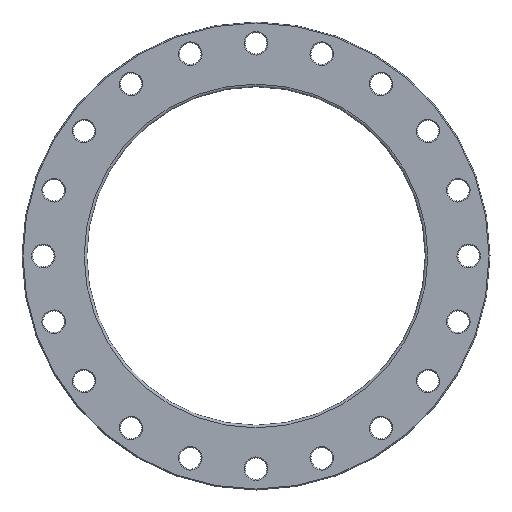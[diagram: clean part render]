
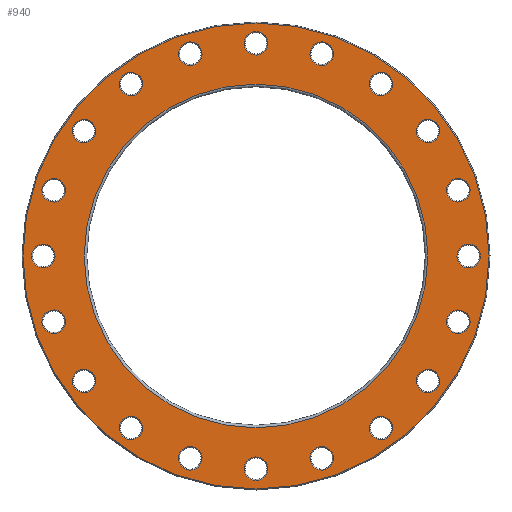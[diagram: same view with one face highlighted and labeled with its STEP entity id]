
A CAD part, front view. The second image highlights one B-rep face of the part: STEP entity #940.
In plain terms, the highlighted planar face has unit normal (0, -1, 0).
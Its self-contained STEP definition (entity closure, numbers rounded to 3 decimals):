
#23=PLANE('',#1104);
#206=ORIENTED_EDGE('',*,*,#325,.T.);
#207=ORIENTED_EDGE('',*,*,#326,.T.);
#208=ORIENTED_EDGE('',*,*,#244,.T.);
#209=ORIENTED_EDGE('',*,*,#248,.T.);
#210=ORIENTED_EDGE('',*,*,#252,.T.);
#211=ORIENTED_EDGE('',*,*,#256,.T.);
#212=ORIENTED_EDGE('',*,*,#260,.T.);
#213=ORIENTED_EDGE('',*,*,#264,.T.);
#214=ORIENTED_EDGE('',*,*,#268,.T.);
#215=ORIENTED_EDGE('',*,*,#272,.T.);
#216=ORIENTED_EDGE('',*,*,#276,.T.);
#217=ORIENTED_EDGE('',*,*,#280,.T.);
#218=ORIENTED_EDGE('',*,*,#284,.T.);
#219=ORIENTED_EDGE('',*,*,#288,.T.);
#220=ORIENTED_EDGE('',*,*,#292,.T.);
#221=ORIENTED_EDGE('',*,*,#296,.T.);
#222=ORIENTED_EDGE('',*,*,#300,.T.);
#223=ORIENTED_EDGE('',*,*,#304,.T.);
#224=ORIENTED_EDGE('',*,*,#308,.T.);
#225=ORIENTED_EDGE('',*,*,#312,.T.);
#226=ORIENTED_EDGE('',*,*,#316,.T.);
#227=ORIENTED_EDGE('',*,*,#327,.T.);
#244=EDGE_CURVE('',#332,#332,#420,.T.);
#248=EDGE_CURVE('',#336,#336,#424,.T.);
#252=EDGE_CURVE('',#340,#340,#428,.T.);
#256=EDGE_CURVE('',#344,#344,#432,.T.);
#260=EDGE_CURVE('',#348,#348,#436,.T.);
#264=EDGE_CURVE('',#352,#352,#440,.T.);
#268=EDGE_CURVE('',#356,#356,#444,.T.);
#272=EDGE_CURVE('',#360,#360,#448,.T.);
#276=EDGE_CURVE('',#364,#364,#452,.T.);
#280=EDGE_CURVE('',#368,#368,#456,.T.);
#284=EDGE_CURVE('',#372,#372,#460,.T.);
#288=EDGE_CURVE('',#376,#376,#464,.T.);
#292=EDGE_CURVE('',#380,#380,#468,.T.);
#296=EDGE_CURVE('',#384,#384,#472,.T.);
#300=EDGE_CURVE('',#388,#388,#476,.T.);
#304=EDGE_CURVE('',#392,#392,#480,.T.);
#308=EDGE_CURVE('',#396,#396,#484,.T.);
#312=EDGE_CURVE('',#400,#400,#488,.T.);
#316=EDGE_CURVE('',#404,#404,#492,.T.);
#325=EDGE_CURVE('',#413,#413,#501,.F.);
#326=EDGE_CURVE('',#414,#414,#502,.T.);
#327=EDGE_CURVE('',#415,#415,#503,.T.);
#332=VERTEX_POINT('',#1439);
#336=VERTEX_POINT('',#1450);
#340=VERTEX_POINT('',#1461);
#344=VERTEX_POINT('',#1472);
#348=VERTEX_POINT('',#1483);
#352=VERTEX_POINT('',#1494);
#356=VERTEX_POINT('',#1505);
#360=VERTEX_POINT('',#1516);
#364=VERTEX_POINT('',#1527);
#368=VERTEX_POINT('',#1538);
#372=VERTEX_POINT('',#1549);
#376=VERTEX_POINT('',#1560);
#380=VERTEX_POINT('',#1571);
#384=VERTEX_POINT('',#1582);
#388=VERTEX_POINT('',#1593);
#392=VERTEX_POINT('',#1604);
#396=VERTEX_POINT('',#1615);
#400=VERTEX_POINT('',#1626);
#404=VERTEX_POINT('',#1637);
#413=VERTEX_POINT('',#1660);
#414=VERTEX_POINT('',#1662);
#415=VERTEX_POINT('',#1664);
#420=CIRCLE('',#965,18.);
#424=CIRCLE('',#972,18.);
#428=CIRCLE('',#979,18.);
#432=CIRCLE('',#986,18.);
#436=CIRCLE('',#993,18.);
#440=CIRCLE('',#1000,18.);
#444=CIRCLE('',#1007,18.);
#448=CIRCLE('',#1014,18.);
#452=CIRCLE('',#1021,18.);
#456=CIRCLE('',#1028,18.);
#460=CIRCLE('',#1035,18.);
#464=CIRCLE('',#1042,18.);
#468=CIRCLE('',#1049,18.);
#472=CIRCLE('',#1056,18.);
#476=CIRCLE('',#1063,18.);
#480=CIRCLE('',#1070,18.);
#484=CIRCLE('',#1077,18.);
#488=CIRCLE('',#1084,18.);
#492=CIRCLE('',#1091,18.);
#501=CIRCLE('',#1105,356.);
#502=CIRCLE('',#1106,262.5);
#503=CIRCLE('',#1107,18.);
#646=EDGE_LOOP('',(#206));
#647=EDGE_LOOP('',(#207));
#648=EDGE_LOOP('',(#208));
#649=EDGE_LOOP('',(#209));
#650=EDGE_LOOP('',(#210));
#651=EDGE_LOOP('',(#211));
#652=EDGE_LOOP('',(#212));
#653=EDGE_LOOP('',(#213));
#654=EDGE_LOOP('',(#214));
#655=EDGE_LOOP('',(#215));
#656=EDGE_LOOP('',(#216));
#657=EDGE_LOOP('',(#217));
#658=EDGE_LOOP('',(#218));
#659=EDGE_LOOP('',(#219));
#660=EDGE_LOOP('',(#220));
#661=EDGE_LOOP('',(#221));
#662=EDGE_LOOP('',(#222));
#663=EDGE_LOOP('',(#223));
#664=EDGE_LOOP('',(#224));
#665=EDGE_LOOP('',(#225));
#666=EDGE_LOOP('',(#226));
#667=EDGE_LOOP('',(#227));
#822=FACE_BOUND('',#646,.T.);
#823=FACE_BOUND('',#647,.T.);
#824=FACE_BOUND('',#648,.T.);
#825=FACE_BOUND('',#649,.T.);
#826=FACE_BOUND('',#650,.T.);
#827=FACE_BOUND('',#651,.T.);
#828=FACE_BOUND('',#652,.T.);
#829=FACE_BOUND('',#653,.T.);
#830=FACE_BOUND('',#654,.T.);
#831=FACE_BOUND('',#655,.T.);
#832=FACE_BOUND('',#656,.T.);
#833=FACE_BOUND('',#657,.T.);
#834=FACE_BOUND('',#658,.T.);
#835=FACE_BOUND('',#659,.T.);
#836=FACE_BOUND('',#660,.T.);
#837=FACE_BOUND('',#661,.T.);
#838=FACE_BOUND('',#662,.T.);
#839=FACE_BOUND('',#663,.T.);
#840=FACE_BOUND('',#664,.T.);
#841=FACE_BOUND('',#665,.T.);
#842=FACE_BOUND('',#666,.T.);
#843=FACE_BOUND('',#667,.T.);
#940=ADVANCED_FACE('',(#822,#823,#824,#825,#826,#827,#828,#829,#830,#831,
#832,#833,#834,#835,#836,#837,#838,#839,#840,#841,#842,#843),#23,.F.);
#965=AXIS2_PLACEMENT_3D('',#1438,#1127,#1128);
#972=AXIS2_PLACEMENT_3D('',#1449,#1141,#1142);
#979=AXIS2_PLACEMENT_3D('',#1460,#1155,#1156);
#986=AXIS2_PLACEMENT_3D('',#1471,#1169,#1170);
#993=AXIS2_PLACEMENT_3D('',#1482,#1183,#1184);
#1000=AXIS2_PLACEMENT_3D('',#1493,#1197,#1198);
#1007=AXIS2_PLACEMENT_3D('',#1504,#1211,#1212);
#1014=AXIS2_PLACEMENT_3D('',#1515,#1225,#1226);
#1021=AXIS2_PLACEMENT_3D('',#1526,#1239,#1240);
#1028=AXIS2_PLACEMENT_3D('',#1537,#1253,#1254);
#1035=AXIS2_PLACEMENT_3D('',#1548,#1267,#1268);
#1042=AXIS2_PLACEMENT_3D('',#1559,#1281,#1282);
#1049=AXIS2_PLACEMENT_3D('',#1570,#1295,#1296);
#1056=AXIS2_PLACEMENT_3D('',#1581,#1309,#1310);
#1063=AXIS2_PLACEMENT_3D('',#1592,#1323,#1324);
#1070=AXIS2_PLACEMENT_3D('',#1603,#1337,#1338);
#1077=AXIS2_PLACEMENT_3D('',#1614,#1351,#1352);
#1084=AXIS2_PLACEMENT_3D('',#1625,#1365,#1366);
#1091=AXIS2_PLACEMENT_3D('',#1636,#1379,#1380);
#1104=AXIS2_PLACEMENT_3D('',#1658,#1405,#1406);
#1105=AXIS2_PLACEMENT_3D('',#1659,#1407,#1408);
#1106=AXIS2_PLACEMENT_3D('',#1661,#1409,#1410);
#1107=AXIS2_PLACEMENT_3D('',#1663,#1411,#1412);
#1127=DIRECTION('',(0.,1.,0.));
#1128=DIRECTION('',(0.951,0.,0.309));
#1141=DIRECTION('',(0.,1.,0.));
#1142=DIRECTION('',(0.809,0.,0.588));
#1155=DIRECTION('',(0.,1.,0.));
#1156=DIRECTION('',(0.588,0.,0.809));
#1169=DIRECTION('',(0.,1.,0.));
#1170=DIRECTION('',(0.309,0.,0.951));
#1183=DIRECTION('',(0.,1.,0.));
#1184=DIRECTION('',(0.,0.,1.));
#1197=DIRECTION('',(0.,1.,0.));
#1198=DIRECTION('',(-0.309,0.,0.951));
#1211=DIRECTION('',(0.,1.,0.));
#1212=DIRECTION('',(-0.588,0.,0.809));
#1225=DIRECTION('',(0.,1.,0.));
#1226=DIRECTION('',(-0.809,0.,0.588));
#1239=DIRECTION('',(0.,1.,0.));
#1240=DIRECTION('',(-0.951,0.,0.309));
#1253=DIRECTION('',(0.,1.,0.));
#1254=DIRECTION('',(-1.,0.,0.));
#1267=DIRECTION('',(0.,1.,0.));
#1268=DIRECTION('',(-0.951,0.,-0.309));
#1281=DIRECTION('',(0.,1.,0.));
#1282=DIRECTION('',(-0.809,0.,-0.588));
#1295=DIRECTION('',(0.,1.,0.));
#1296=DIRECTION('',(-0.588,0.,-0.809));
#1309=DIRECTION('',(0.,1.,0.));
#1310=DIRECTION('',(-0.309,0.,-0.951));
#1323=DIRECTION('',(0.,1.,0.));
#1324=DIRECTION('',(0.,0.,-1.));
#1337=DIRECTION('',(0.,1.,0.));
#1338=DIRECTION('',(0.309,0.,-0.951));
#1351=DIRECTION('',(0.,1.,0.));
#1352=DIRECTION('',(0.588,0.,-0.809));
#1365=DIRECTION('',(0.,1.,0.));
#1366=DIRECTION('',(0.809,0.,-0.588));
#1379=DIRECTION('',(0.,1.,0.));
#1380=DIRECTION('',(0.951,0.,-0.309));
#1405=DIRECTION('',(0.,1.,0.));
#1406=DIRECTION('',(0.,0.,1.));
#1407=DIRECTION('',(0.,1.,0.));
#1408=DIRECTION('',(0.,0.,1.));
#1409=DIRECTION('',(0.,1.,0.));
#1410=DIRECTION('',(0.,0.,1.));
#1411=DIRECTION('',(0.,1.,0.));
#1412=DIRECTION('',(1.,0.,0.));
#1438=CARTESIAN_POINT('',(-100.431,0.,309.093));
#1439=CARTESIAN_POINT('',(-83.312,0.,314.656));
#1449=CARTESIAN_POINT('',(-191.03,0.,262.931));
#1450=CARTESIAN_POINT('',(-176.468,0.,273.511));
#1460=CARTESIAN_POINT('',(-262.931,0.,191.03));
#1461=CARTESIAN_POINT('',(-252.35,0.,205.593));
#1471=CARTESIAN_POINT('',(-309.093,0.,100.431));
#1472=CARTESIAN_POINT('',(-303.531,0.,117.55));
#1482=CARTESIAN_POINT('',(-325.,0.,0.));
#1483=CARTESIAN_POINT('',(-325.,0.,18.));
#1493=CARTESIAN_POINT('',(-309.093,0.,-100.431));
#1494=CARTESIAN_POINT('',(-314.656,0.,-83.312));
#1504=CARTESIAN_POINT('',(-262.931,0.,-191.03));
#1505=CARTESIAN_POINT('',(-273.511,0.,-176.468));
#1515=CARTESIAN_POINT('',(-191.03,0.,-262.931));
#1516=CARTESIAN_POINT('',(-205.593,0.,-252.35));
#1526=CARTESIAN_POINT('',(-100.431,0.,-309.093));
#1527=CARTESIAN_POINT('',(-117.55,0.,-303.531));
#1537=CARTESIAN_POINT('',(0.,0.,-325.));
#1538=CARTESIAN_POINT('',(-18.,0.,-325.));
#1548=CARTESIAN_POINT('',(100.431,0.,-309.093));
#1549=CARTESIAN_POINT('',(83.312,0.,-314.656));
#1559=CARTESIAN_POINT('',(191.03,0.,-262.931));
#1560=CARTESIAN_POINT('',(176.468,0.,-273.511));
#1570=CARTESIAN_POINT('',(262.931,0.,-191.03));
#1571=CARTESIAN_POINT('',(252.35,0.,-205.593));
#1581=CARTESIAN_POINT('',(309.093,0.,-100.431));
#1582=CARTESIAN_POINT('',(303.531,0.,-117.55));
#1592=CARTESIAN_POINT('',(325.,0.,0.));
#1593=CARTESIAN_POINT('',(325.,0.,-18.));
#1603=CARTESIAN_POINT('',(309.093,0.,100.431));
#1604=CARTESIAN_POINT('',(314.656,0.,83.312));
#1614=CARTESIAN_POINT('',(262.931,0.,191.03));
#1615=CARTESIAN_POINT('',(273.511,0.,176.468));
#1625=CARTESIAN_POINT('',(191.03,0.,262.931));
#1626=CARTESIAN_POINT('',(205.593,0.,252.35));
#1636=CARTESIAN_POINT('',(100.431,0.,309.093));
#1637=CARTESIAN_POINT('',(117.55,0.,303.531));
#1658=CARTESIAN_POINT('',(0.,0.,0.));
#1659=CARTESIAN_POINT('',(0.,0.,0.));
#1660=CARTESIAN_POINT('',(0.,0.,356.));
#1661=CARTESIAN_POINT('',(0.,0.,0.));
#1662=CARTESIAN_POINT('',(0.,0.,262.5));
#1663=CARTESIAN_POINT('',(0.,0.,325.));
#1664=CARTESIAN_POINT('',(18.,0.,325.));
